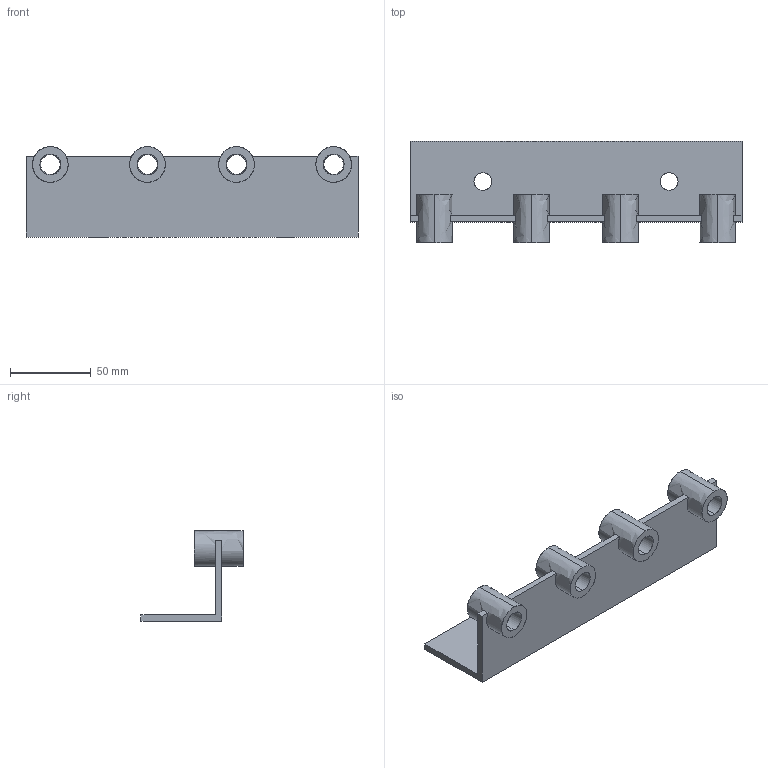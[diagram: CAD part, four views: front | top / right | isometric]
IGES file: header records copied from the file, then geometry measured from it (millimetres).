
Global section: file name: E:\UnigraphicsGraphicData\MISUMI_PRESS-PARTS\IGES\3d_dahk-e_03684_r00.igs; native system: NX V5.0; preprocessor: UGS NX IGES V5.0; author: MISUMI; date: 20110105.160523; units: millimetre
Bounding box: 205 x 63 x 56 mm (x, y, z)
Surface area: 53218.6 mm2 (no closed solid volume)
Topology: 0 solids, 0 shells, 56 faces, 464 edges, 464 vertices
Faces by surface type: bspline 56
